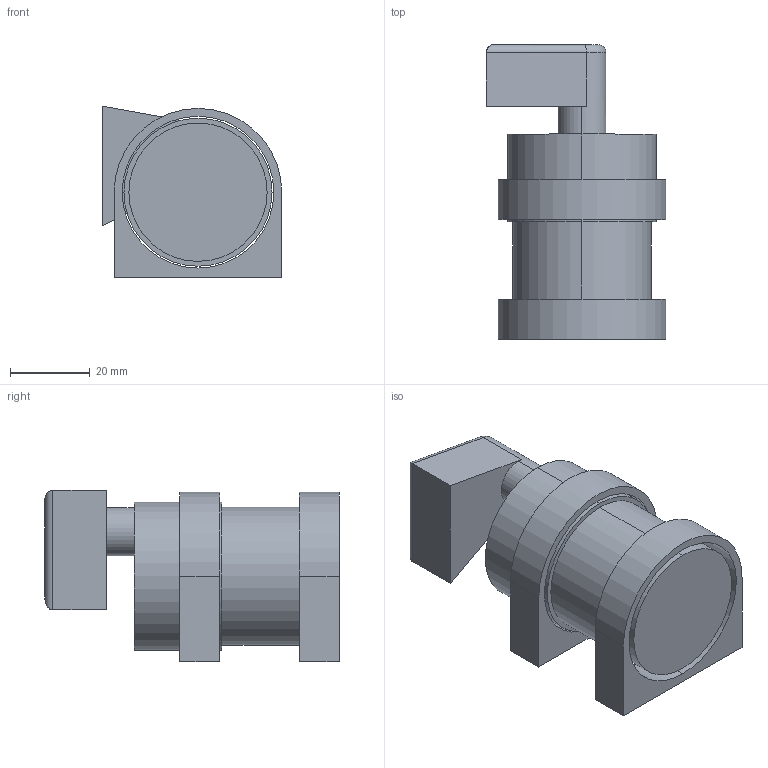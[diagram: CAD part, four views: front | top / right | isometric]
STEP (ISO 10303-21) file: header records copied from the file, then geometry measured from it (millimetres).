
FILE_DESCRIPTION (( 'STEP AP203' ), '1' );
FILE_NAME ('Motor.STEP', '2021-06-04T13:47:38', ( '' ), ( '' ), 'SwSTEP 2.0', 'SolidWorks 2016', '' );
FILE_SCHEMA (( 'CONFIG_CONTROL_DESIGN' ));
Length unit declared in the file: centimetre
Products named in the file (1): Motor
Bounding box: 45 x 73.8 x 43 mm (x, y, z)
Volume: 70260.1 mm3; surface area: 17819.7 mm2
Topology: 3 solids, 3 shells, 34 faces, 74 edges, 48 vertices
Faces by surface type: plane 18, cylinder 15, torus 1
Entity records: 1016 total; most frequent: DIRECTION 171, CARTESIAN_POINT 163, ORIENTED_EDGE 148, EDGE_CURVE 74, AXIS2_PLACEMENT_3D 64, VERTEX_POINT 48, LINE 43, VECTOR 43
